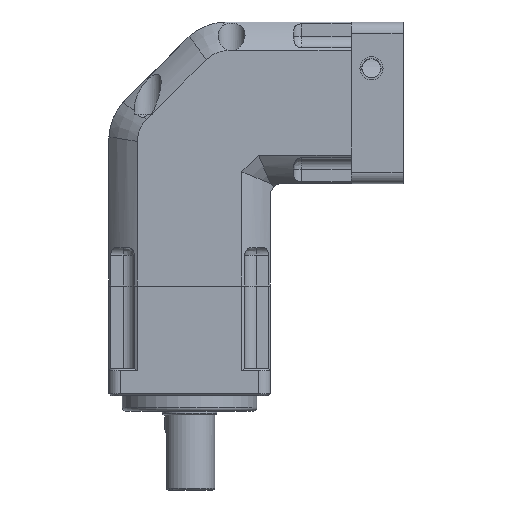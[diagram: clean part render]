
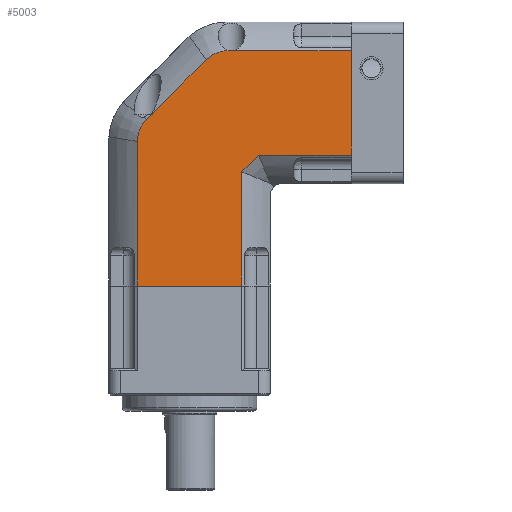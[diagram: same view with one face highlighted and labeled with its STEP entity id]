
A CAD part, left-side view. The second image highlights one B-rep face of the part: STEP entity #5003.
In plain terms, the highlighted planar face has unit normal (-1, 0, 0) as drawn and (1, 0, 0) by its records, which use the part's own axes.
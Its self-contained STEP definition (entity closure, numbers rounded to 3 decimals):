
#3765=CARTESIAN_POINT('',(21.,-13.565,68.6));
#3766=VERTEX_POINT('',#3765);
#3776=CARTESIAN_POINT('',(21.,13.565,68.6));
#3777=VERTEX_POINT('',#3776);
#3778=CARTESIAN_POINT('',(21.,13.565,68.6));
#3779=DIRECTION('',(0.0,-1.0,0.0));
#3780=VECTOR('',#3779,27.129);
#3781=LINE('',#3778,#3780);
#3782=EDGE_CURVE('',#3777,#3766,#3781,.T.);
#4535=CARTESIAN_POINT('',(21.,13.565,31.054));
#4536=VERTEX_POINT('',#4535);
#4544=CARTESIAN_POINT('',(21.0,11.181,25.299));
#4545=VERTEX_POINT('',#4544);
#4546=CARTESIAN_POINT('',(21.,13.565,31.054));
#4547=CARTESIAN_POINT('',(21.,13.565,29.982));
#4548=CARTESIAN_POINT('',(21.,13.362,28.928));
#4549=CARTESIAN_POINT('',(21.,12.542,26.947));
#4550=CARTESIAN_POINT('',(21.,11.94,26.058));
#4551=CARTESIAN_POINT('',(21.,11.181,25.299));
#4552=B_SPLINE_CURVE_WITH_KNOTS('',3,(#4546,#4547,#4548,#4549,#4550,#4551),.UNSPECIFIED.,.F.,.U.,(4,2,4),(0.0,0.322,0.644),.UNSPECIFIED.);
#4553=EDGE_CURVE('',#4536,#4545,#4552,.T.);
#4924=CARTESIAN_POINT('',(21.,13.565,31.054));
#4925=DIRECTION('',(0.0,0.0,1.0));
#4926=VECTOR('',#4925,37.546);
#4927=LINE('',#4924,#4926);
#4928=EDGE_CURVE('',#4536,#3777,#4927,.T.);
#4936=CARTESIAN_POINT('',(21.,13.565,0.0));
#4937=DIRECTION('',(1.0,0.0,0.0));
#4938=DIRECTION('',(0.0,0.0,-1.0));
#4939=AXIS2_PLACEMENT_3D('',#4936,#4937,#4938);
#4940=PLANE('',#4939);
#4941=ORIENTED_EDGE('',*,*,#3782,.T.);
#4942=CARTESIAN_POINT('',(21.,-13.565,38.92));
#4943=VERTEX_POINT('',#4942);
#4944=CARTESIAN_POINT('',(21.,-13.565,38.92));
#4945=DIRECTION('',(0.0,0.0,1.0));
#4946=VECTOR('',#4945,29.68);
#4947=LINE('',#4944,#4946);
#4948=EDGE_CURVE('',#4943,#3766,#4947,.T.);
#4949=ORIENTED_EDGE('',*,*,#4948,.F.);
#4950=CARTESIAN_POINT('',(21.,-17.92,34.565));
#4951=VERTEX_POINT('',#4950);
#4952=CARTESIAN_POINT('',(21.,-17.92,34.565));
#4953=DIRECTION('',(0.0,0.707,0.707));
#4954=VECTOR('',#4953,6.16);
#4955=LINE('',#4952,#4954);
#4956=EDGE_CURVE('',#4951,#4943,#4955,.T.);
#4957=ORIENTED_EDGE('',*,*,#4956,.F.);
#4958=CARTESIAN_POINT('',(21.,-42.,34.565));
#4959=VERTEX_POINT('',#4958);
#4960=CARTESIAN_POINT('',(21.,-17.92,34.565));
#4961=DIRECTION('',(0.0,-1.0,0.0));
#4962=VECTOR('',#4961,24.08);
#4963=LINE('',#4960,#4962);
#4964=EDGE_CURVE('',#4951,#4959,#4963,.T.);
#4965=ORIENTED_EDGE('',*,*,#4964,.T.);
#4966=CARTESIAN_POINT('',(21.,-42.,7.435));
#4967=VERTEX_POINT('',#4966);
#4968=CARTESIAN_POINT('',(21.,-42.,34.565));
#4969=DIRECTION('',(0.0,0.0,-1.0));
#4970=VECTOR('',#4969,27.129);
#4971=LINE('',#4968,#4970);
#4972=EDGE_CURVE('',#4959,#4967,#4971,.T.);
#4973=ORIENTED_EDGE('',*,*,#4972,.T.);
#4974=CARTESIAN_POINT('',(21.,-10.054,7.435));
#4975=VERTEX_POINT('',#4974);
#4976=CARTESIAN_POINT('',(21.,-42.,7.435));
#4977=DIRECTION('',(0.0,1.0,0.0));
#4978=VECTOR('',#4977,31.946);
#4979=LINE('',#4976,#4978);
#4980=EDGE_CURVE('',#4967,#4975,#4979,.T.);
#4981=ORIENTED_EDGE('',*,*,#4980,.T.);
#4982=CARTESIAN_POINT('',(21.,-4.299,9.819));
#4983=VERTEX_POINT('',#4982);
#4984=CARTESIAN_POINT('',(21.,-4.299,9.819));
#4985=CARTESIAN_POINT('',(21.,-5.057,9.061));
#4986=CARTESIAN_POINT('',(21.,-5.945,8.459));
#4987=CARTESIAN_POINT('',(21.,-7.926,7.638));
#4988=CARTESIAN_POINT('',(21.,-8.981,7.435));
#4989=CARTESIAN_POINT('',(21.,-10.054,7.435));
#4990=B_SPLINE_CURVE_WITH_KNOTS('',3,(#4984,#4985,#4986,#4987,#4988,#4989),.UNSPECIFIED.,.F.,.U.,(4,2,4),(0.0,0.322,0.644),.UNSPECIFIED.);
#4991=EDGE_CURVE('',#4983,#4975,#4990,.T.);
#4992=ORIENTED_EDGE('',*,*,#4991,.F.);
#4993=CARTESIAN_POINT('',(21.,-4.299,9.819));
#4994=DIRECTION('',(0.0,0.707,0.707));
#4995=VECTOR('',#4994,21.892);
#4996=LINE('',#4993,#4995);
#4997=EDGE_CURVE('',#4983,#4545,#4996,.T.);
#4998=ORIENTED_EDGE('',*,*,#4997,.T.);
#4999=ORIENTED_EDGE('',*,*,#4553,.F.);
#5000=ORIENTED_EDGE('',*,*,#4928,.T.);
#5001=EDGE_LOOP('',(#4941,#4949,#4957,#4965,#4973,#4981,#4992,#4998,#4999,#5000));
#5002=FACE_OUTER_BOUND('',#5001,.T.);
#5003=ADVANCED_FACE('',(#5002),#4940,.T.);
